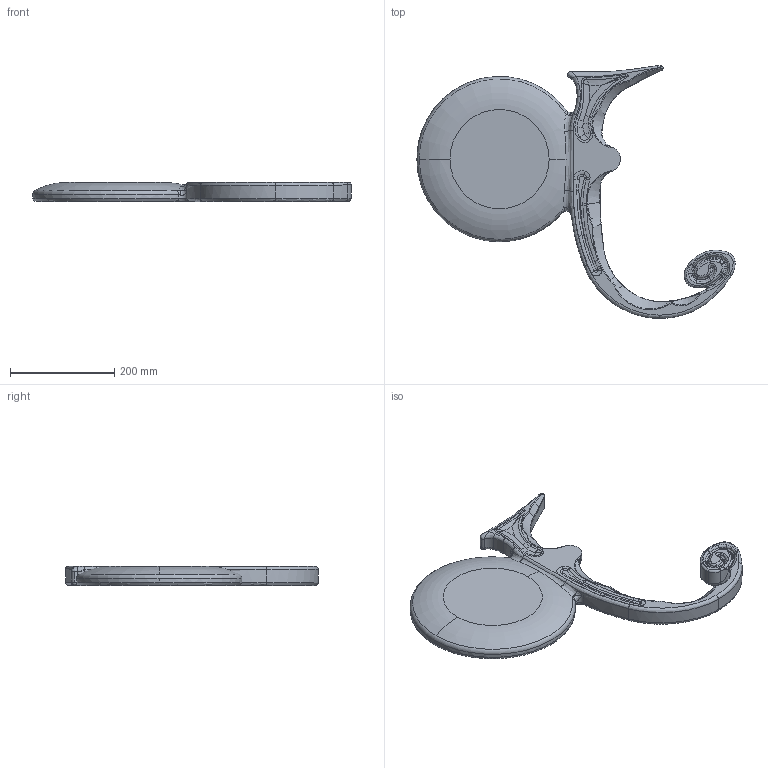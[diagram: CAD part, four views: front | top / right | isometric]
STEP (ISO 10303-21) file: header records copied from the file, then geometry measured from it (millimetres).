
FILE_DESCRIPTION (( 'STEP AP203' ), '1' );
FILE_NAME ('PrinceBody_01.STEP', '2017-09-13T15:57:30', ( '' ), ( '' ), 'SwSTEP 2.0', 'SolidWorks 2015', '' );
FILE_SCHEMA (( 'CONFIG_CONTROL_DESIGN' ));
Length unit declared in the file: inch
Products named in the file (1): PrinceBody_01
Bounding box: 611.12 x 485.64 x 36.51 mm (x, y, z)
Volume: 3906344.8 mm3; surface area: 301261.9 mm2
Topology: 1 solids, 1 shells, 266 faces, 649 edges, 375 vertices
Faces by surface type: torus 104, bspline 101, cylinder 38, cone 13, plane 8, sphere 2
Entity records: 14479 total; most frequent: CARTESIAN_POINT 9095, ORIENTED_EDGE 1276, DIRECTION 956, EDGE_CURVE 638, AXIS2_PLACEMENT_3D 456, VERTEX_POINT 375, CIRCLE 290, EDGE_LOOP 267
